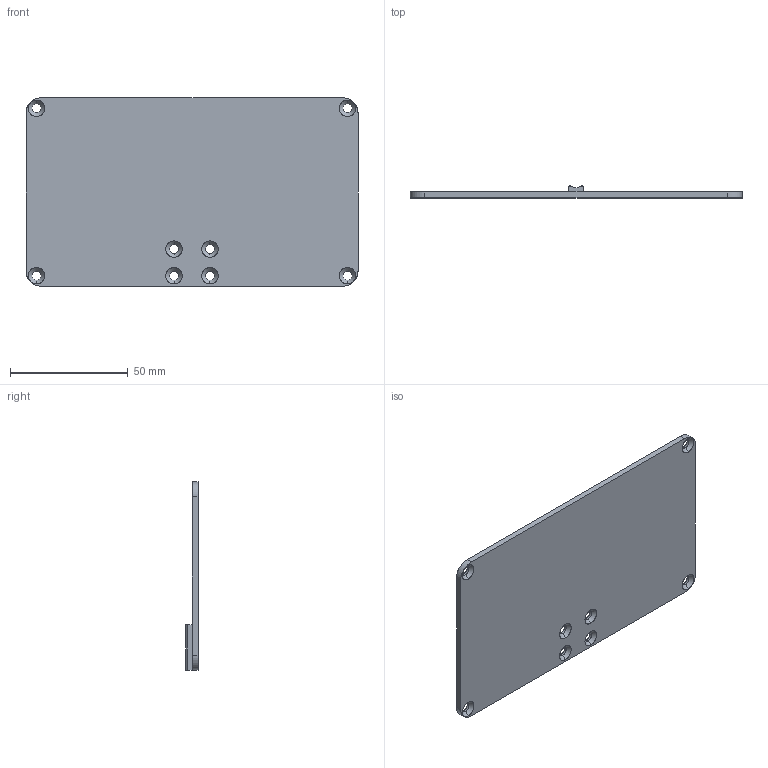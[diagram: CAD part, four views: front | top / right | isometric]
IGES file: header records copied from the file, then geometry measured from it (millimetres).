
Start section: SolidWorks IGES file using analytic representation for surfaces
Global section: file name: F:\Projects\M2\Revisions\VikiEnclosureBottom.IGS; native system: SolidWorks 2014; preprocessor: SolidWorks 2014; author: epeterson; date: 151109.103212; units: inch
Bounding box: 140.97 x 5.21 x 80.01 mm (x, y, z)
Surface area: 23703.6 mm2 (no closed solid volume)
Topology: 0 solids, 0 shells, 48 faces, 822 edges, 822 vertices
Faces by surface type: revolution 39, bspline 9
